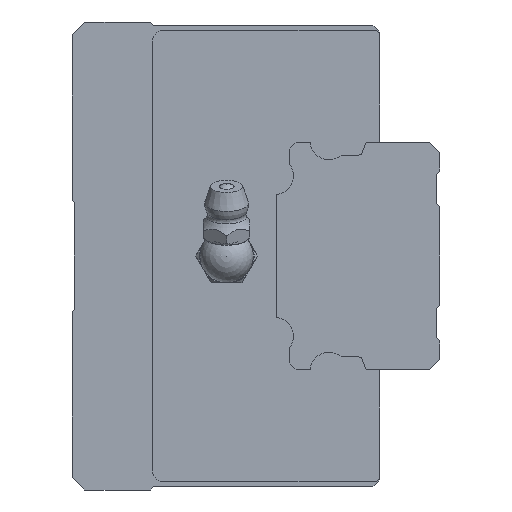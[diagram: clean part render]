
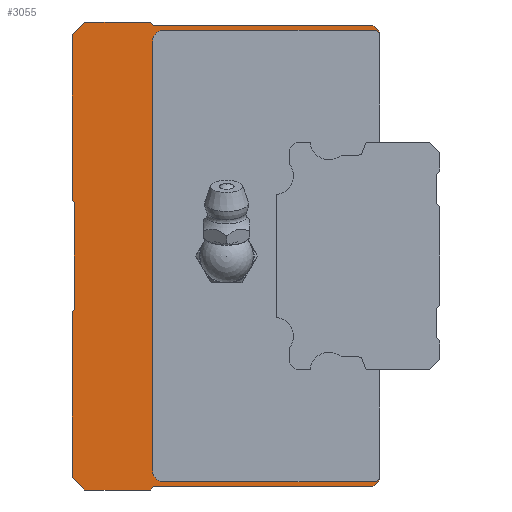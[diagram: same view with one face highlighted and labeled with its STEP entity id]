
A CAD part, left-side view. The second image highlights one B-rep face of the part: STEP entity #3055.
In plain terms, the highlighted planar face has unit normal (-1, 0, 0).
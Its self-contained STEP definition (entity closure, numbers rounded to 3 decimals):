
#185=CIRCLE('',#3368,1.8);
#186=CIRCLE('',#3369,1.8);
#740=ORIENTED_EDGE('',*,*,#1419,.F.);
#741=ORIENTED_EDGE('',*,*,#1279,.F.);
#742=ORIENTED_EDGE('',*,*,#1377,.F.);
#743=ORIENTED_EDGE('',*,*,#1374,.F.);
#744=ORIENTED_EDGE('',*,*,#1371,.F.);
#745=ORIENTED_EDGE('',*,*,#1368,.F.);
#746=ORIENTED_EDGE('',*,*,#1364,.F.);
#747=ORIENTED_EDGE('',*,*,#1410,.F.);
#748=ORIENTED_EDGE('',*,*,#1405,.F.);
#749=ORIENTED_EDGE('',*,*,#1402,.F.);
#750=ORIENTED_EDGE('',*,*,#1399,.F.);
#751=ORIENTED_EDGE('',*,*,#1396,.F.);
#752=ORIENTED_EDGE('',*,*,#1391,.F.);
#753=ORIENTED_EDGE('',*,*,#1388,.F.);
#754=ORIENTED_EDGE('',*,*,#1385,.F.);
#755=ORIENTED_EDGE('',*,*,#1382,.F.);
#756=ORIENTED_EDGE('',*,*,#1379,.F.);
#757=ORIENTED_EDGE('',*,*,#1285,.F.);
#758=ORIENTED_EDGE('',*,*,#1420,.F.);
#759=ORIENTED_EDGE('',*,*,#1421,.F.);
#760=ORIENTED_EDGE('',*,*,#1422,.F.);
#761=ORIENTED_EDGE('',*,*,#1423,.F.);
#762=ORIENTED_EDGE('',*,*,#1424,.F.);
#763=ORIENTED_EDGE('',*,*,#1425,.F.);
#1279=EDGE_CURVE('',#1665,#1666,#1962,.T.);
#1285=EDGE_CURVE('',#1671,#1672,#1968,.T.);
#1364=EDGE_CURVE('',#1746,#1747,#2009,.T.);
#1368=EDGE_CURVE('',#1747,#1750,#2013,.T.);
#1371=EDGE_CURVE('',#1750,#1752,#2016,.T.);
#1374=EDGE_CURVE('',#1752,#1754,#2019,.T.);
#1377=EDGE_CURVE('',#1754,#1665,#2022,.T.);
#1379=EDGE_CURVE('',#1672,#1756,#2024,.T.);
#1382=EDGE_CURVE('',#1756,#1758,#2027,.T.);
#1385=EDGE_CURVE('',#1758,#1760,#2030,.T.);
#1388=EDGE_CURVE('',#1760,#1762,#2033,.T.);
#1391=EDGE_CURVE('',#1762,#1764,#2036,.T.);
#1396=EDGE_CURVE('',#1764,#1768,#2039,.T.);
#1399=EDGE_CURVE('',#1768,#1770,#2042,.T.);
#1402=EDGE_CURVE('',#1770,#1772,#2045,.T.);
#1405=EDGE_CURVE('',#1772,#1774,#2048,.T.);
#1410=EDGE_CURVE('',#1774,#1746,#2051,.T.);
#1419=EDGE_CURVE('',#1666,#1784,#2058,.T.);
#1420=EDGE_CURVE('',#1785,#1671,#2059,.T.);
#1421=EDGE_CURVE('',#1786,#1785,#2060,.T.);
#1422=EDGE_CURVE('',#1787,#1786,#185,.F.);
#1423=EDGE_CURVE('',#1788,#1787,#2061,.T.);
#1424=EDGE_CURVE('',#1789,#1788,#186,.F.);
#1425=EDGE_CURVE('',#1784,#1789,#2062,.T.);
#1665=VERTEX_POINT('',#4734);
#1666=VERTEX_POINT('',#4736);
#1671=VERTEX_POINT('',#4747);
#1672=VERTEX_POINT('',#4749);
#1746=VERTEX_POINT('',#4905);
#1747=VERTEX_POINT('',#4906);
#1750=VERTEX_POINT('',#4914);
#1752=VERTEX_POINT('',#4920);
#1754=VERTEX_POINT('',#4926);
#1756=VERTEX_POINT('',#4935);
#1758=VERTEX_POINT('',#4941);
#1760=VERTEX_POINT('',#4947);
#1762=VERTEX_POINT('',#4953);
#1764=VERTEX_POINT('',#4959);
#1768=VERTEX_POINT('',#4969);
#1770=VERTEX_POINT('',#4975);
#1772=VERTEX_POINT('',#4981);
#1774=VERTEX_POINT('',#4987);
#1784=VERTEX_POINT('',#5014);
#1785=VERTEX_POINT('',#5016);
#1786=VERTEX_POINT('',#5018);
#1787=VERTEX_POINT('',#5020);
#1788=VERTEX_POINT('',#5022);
#1789=VERTEX_POINT('',#5024);
#1962=LINE('',#4735,#2226);
#1968=LINE('',#4748,#2232);
#2009=LINE('',#4904,#2273);
#2013=LINE('',#4913,#2277);
#2016=LINE('',#4919,#2280);
#2019=LINE('',#4925,#2283);
#2022=LINE('',#4931,#2286);
#2024=LINE('',#4934,#2288);
#2027=LINE('',#4940,#2291);
#2030=LINE('',#4946,#2294);
#2033=LINE('',#4952,#2297);
#2036=LINE('',#4958,#2300);
#2039=LINE('',#4968,#2303);
#2042=LINE('',#4974,#2306);
#2045=LINE('',#4980,#2309);
#2048=LINE('',#4986,#2312);
#2051=LINE('',#4996,#2315);
#2058=LINE('',#5013,#2322);
#2059=LINE('',#5015,#2323);
#2060=LINE('',#5017,#2324);
#2061=LINE('',#5021,#2325);
#2062=LINE('',#5025,#2326);
#2226=VECTOR('',#3826,1000.);
#2232=VECTOR('',#3834,1000.);
#2273=VECTOR('',#3957,1000.);
#2277=VECTOR('',#3963,1000.);
#2280=VECTOR('',#3968,1000.);
#2283=VECTOR('',#3973,1000.);
#2286=VECTOR('',#3978,1000.);
#2288=VECTOR('',#3982,1000.);
#2291=VECTOR('',#3987,1000.);
#2294=VECTOR('',#3992,1000.);
#2297=VECTOR('',#3997,1000.);
#2300=VECTOR('',#4002,1000.);
#2303=VECTOR('',#4011,1000.);
#2306=VECTOR('',#4016,1000.);
#2309=VECTOR('',#4021,1000.);
#2312=VECTOR('',#4026,1000.);
#2315=VECTOR('',#4035,1000.);
#2322=VECTOR('',#4050,1000.);
#2323=VECTOR('',#4051,1000.);
#2324=VECTOR('',#4052,1000.);
#2325=VECTOR('',#4055,1000.);
#2326=VECTOR('',#4058,1000.);
#2497=EDGE_LOOP('',(#740,#741,#742,#743,#744,#745,#746,#747,#748,#749,#750,
#751,#752,#753,#754,#755,#756,#757,#758,#759,#760,#761,#762,#763));
#2736=FACE_BOUND('',#2497,.T.);
#2931=PLANE('',#3367);
#3055=ADVANCED_FACE('',(#2736),#2931,.F.);
#3367=AXIS2_PLACEMENT_3D('',#5012,#4048,#4049);
#3368=AXIS2_PLACEMENT_3D('',#5019,#4053,#4054);
#3369=AXIS2_PLACEMENT_3D('',#5023,#4056,#4057);
#3826=DIRECTION('',(0.,0.,-1.));
#3834=DIRECTION('',(0.,0.,-1.));
#3957=DIRECTION('',(0.,-0.707,0.707));
#3963=DIRECTION('',(0.,-1.,0.));
#3968=DIRECTION('',(0.,-0.707,-0.707));
#3973=DIRECTION('',(0.,-1.,0.));
#3978=DIRECTION('',(0.,-0.707,-0.707));
#3982=DIRECTION('',(0.,0.707,-0.707));
#3987=DIRECTION('',(0.,1.,0.));
#3992=DIRECTION('',(0.,0.707,-0.707));
#3997=DIRECTION('',(0.,1.,0.));
#4002=DIRECTION('',(0.,0.707,0.707));
#4011=DIRECTION('',(0.,0.,1.));
#4016=DIRECTION('',(0.,-0.707,0.707));
#4021=DIRECTION('',(0.,0.,1.));
#4026=DIRECTION('',(0.,0.707,0.707));
#4035=DIRECTION('',(0.,0.,1.));
#4048=DIRECTION('',(1.,0.,0.));
#4049=DIRECTION('',(0.,0.,-1.));
#4050=DIRECTION('',(0.,0.707,0.707));
#4051=DIRECTION('',(0.,-0.707,0.707));
#4052=DIRECTION('',(0.,-1.,0.));
#4053=DIRECTION('',(1.,0.,0.));
#4054=DIRECTION('',(0.,0.,-1.));
#4055=DIRECTION('',(0.,0.,-1.));
#4056=DIRECTION('',(1.,0.,0.));
#4057=DIRECTION('',(0.,0.,-1.));
#4058=DIRECTION('',(0.,1.,0.));
#4734=CARTESIAN_POINT('',(-39.5,0.,33.5));
#4735=CARTESIAN_POINT('',(-39.5,0.,33.5));
#4736=CARTESIAN_POINT('',(-39.5,0.,33.3));
#4747=CARTESIAN_POINT('',(-39.5,0.,-33.3));
#4748=CARTESIAN_POINT('',(-39.5,0.,33.5));
#4749=CARTESIAN_POINT('',(-39.5,0.,-33.5));
#4904=CARTESIAN_POINT('',(-39.5,46.,33.1));
#4905=CARTESIAN_POINT('',(-39.5,46.,33.1));
#4906=CARTESIAN_POINT('',(-39.5,44.1,35.));
#4913=CARTESIAN_POINT('',(-39.5,44.1,35.));
#4914=CARTESIAN_POINT('',(-39.5,34.3,35.));
#4919=CARTESIAN_POINT('',(-39.5,34.3,35.));
#4920=CARTESIAN_POINT('',(-39.5,33.8,34.5));
#4925=CARTESIAN_POINT('',(-39.5,33.8,34.5));
#4926=CARTESIAN_POINT('',(-39.5,1.,34.5));
#4931=CARTESIAN_POINT('',(-39.5,1.,34.5));
#4934=CARTESIAN_POINT('',(-39.5,0.,-33.5));
#4935=CARTESIAN_POINT('',(-39.5,1.,-34.5));
#4940=CARTESIAN_POINT('',(-39.5,1.,-34.5));
#4941=CARTESIAN_POINT('',(-39.5,33.8,-34.5));
#4946=CARTESIAN_POINT('',(-39.5,33.8,-34.5));
#4947=CARTESIAN_POINT('',(-39.5,34.3,-35.));
#4952=CARTESIAN_POINT('',(-39.5,34.3,-35.));
#4953=CARTESIAN_POINT('',(-39.5,44.1,-35.));
#4958=CARTESIAN_POINT('',(-39.5,44.1,-35.));
#4959=CARTESIAN_POINT('',(-39.5,46.,-33.1));
#4968=CARTESIAN_POINT('',(-39.5,46.,-33.1));
#4969=CARTESIAN_POINT('',(-39.5,46.,-8.3));
#4974=CARTESIAN_POINT('',(-39.5,46.,-8.3));
#4975=CARTESIAN_POINT('',(-39.5,45.7,-8.));
#4980=CARTESIAN_POINT('',(-39.5,45.7,-8.));
#4981=CARTESIAN_POINT('',(-39.5,45.7,8.));
#4986=CARTESIAN_POINT('',(-39.5,45.7,8.));
#4987=CARTESIAN_POINT('',(-39.5,46.,8.3));
#4996=CARTESIAN_POINT('',(-39.5,46.,8.3));
#5012=CARTESIAN_POINT('',(-39.5,0.,0.));
#5013=CARTESIAN_POINT('',(-39.5,-16.65,16.65));
#5014=CARTESIAN_POINT('',(-39.5,0.5,33.8));
#5015=CARTESIAN_POINT('',(-39.5,-16.65,-16.65));
#5016=CARTESIAN_POINT('',(-39.5,0.5,-33.8));
#5017=CARTESIAN_POINT('',(-39.5,0.,-33.8));
#5018=CARTESIAN_POINT('',(-39.5,32.2,-33.8));
#5019=CARTESIAN_POINT('',(-39.5,32.2,-32.));
#5020=CARTESIAN_POINT('',(-39.5,34.,-32.));
#5021=CARTESIAN_POINT('',(-39.5,34.,0.));
#5022=CARTESIAN_POINT('',(-39.5,34.,32.));
#5023=CARTESIAN_POINT('',(-39.5,32.2,32.));
#5024=CARTESIAN_POINT('',(-39.5,32.2,33.8));
#5025=CARTESIAN_POINT('',(-39.5,0.,33.8));
